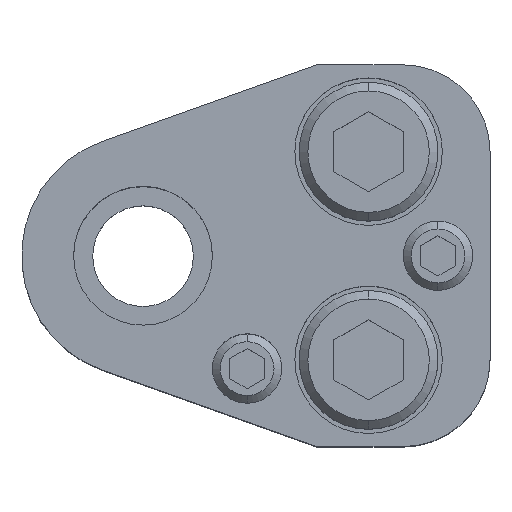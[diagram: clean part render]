
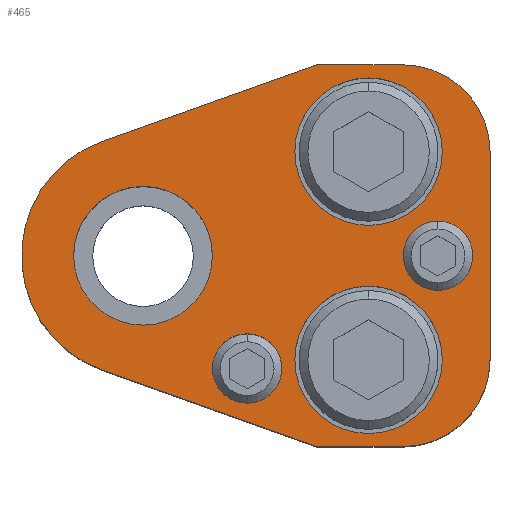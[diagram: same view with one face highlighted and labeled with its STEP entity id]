
A CAD part, top view. The second image highlights one B-rep face of the part: STEP entity #465.
In plain terms, the highlighted planar face has unit normal (0, 0, 1).
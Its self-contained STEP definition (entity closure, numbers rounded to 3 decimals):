
#219=FACE_BOUND('',#833,.T.);
#220=FACE_BOUND('',#834,.T.);
#221=FACE_BOUND('',#835,.T.);
#222=FACE_BOUND('',#836,.T.);
#223=FACE_BOUND('',#837,.T.);
#224=FACE_BOUND('',#838,.T.);
#269=CIRCLE('',#2664,10.);
#271=CIRCLE('',#2668,10.);
#281=CIRCLE('',#2684,8.5);
#283=CIRCLE('',#2687,8.5);
#285=CIRCLE('',#2691,8.5);
#287=CIRCLE('',#2694,8.5);
#290=CIRCLE('',#2699,14.);
#292=CIRCLE('',#2705,8.);
#294=CIRCLE('',#2708,8.);
#314=CIRCLE('',#2743,4.);
#315=CIRCLE('',#2744,4.);
#316=CIRCLE('',#2745,4.);
#317=CIRCLE('',#2746,4.);
#465=ADVANCED_FACE('',(#219,#220,#221,#222,#223,#224),#584,.T.);
#584=PLANE('',#2747);
#833=EDGE_LOOP('',(#1239,#1240,#1241,#1242,#1243,#1244,#1245,#1246));
#834=EDGE_LOOP('',(#1247,#1248));
#835=EDGE_LOOP('',(#1249,#1250));
#836=EDGE_LOOP('',(#1251,#1252));
#837=EDGE_LOOP('',(#1253,#1254));
#838=EDGE_LOOP('',(#1255,#1256));
#1239=ORIENTED_EDGE('',*,*,#1976,.T.);
#1240=ORIENTED_EDGE('',*,*,#1985,.T.);
#1241=ORIENTED_EDGE('',*,*,#1935,.T.);
#1242=ORIENTED_EDGE('',*,*,#1939,.T.);
#1243=ORIENTED_EDGE('',*,*,#1942,.T.);
#1244=ORIENTED_EDGE('',*,*,#1945,.T.);
#1245=ORIENTED_EDGE('',*,*,#1948,.T.);
#1246=ORIENTED_EDGE('',*,*,#1980,.T.);
#1247=ORIENTED_EDGE('',*,*,#2026,.F.);
#1248=ORIENTED_EDGE('',*,*,#2027,.F.);
#1249=ORIENTED_EDGE('',*,*,#2028,.F.);
#1250=ORIENTED_EDGE('',*,*,#2029,.F.);
#1251=ORIENTED_EDGE('',*,*,#1972,.F.);
#1252=ORIENTED_EDGE('',*,*,#1968,.F.);
#1253=ORIENTED_EDGE('',*,*,#1966,.F.);
#1254=ORIENTED_EDGE('',*,*,#1962,.F.);
#1255=ORIENTED_EDGE('',*,*,#1996,.T.);
#1256=ORIENTED_EDGE('',*,*,#1993,.T.);
#1686=VERTEX_POINT('',#3857);
#1687=VERTEX_POINT('',#3859);
#1690=VERTEX_POINT('',#3866);
#1692=VERTEX_POINT('',#3872);
#1694=VERTEX_POINT('',#3878);
#1696=VERTEX_POINT('',#3884);
#1705=VERTEX_POINT('',#3913);
#1706=VERTEX_POINT('',#3914);
#1709=VERTEX_POINT('',#3926);
#1710=VERTEX_POINT('',#3927);
#1715=VERTEX_POINT('',#3942);
#1716=VERTEX_POINT('',#3944);
#1726=VERTEX_POINT('',#3979);
#1727=VERTEX_POINT('',#3981);
#1746=VERTEX_POINT('',#4049);
#1747=VERTEX_POINT('',#4050);
#1748=VERTEX_POINT('',#4053);
#1749=VERTEX_POINT('',#4054);
#1935=EDGE_CURVE('',#1687,#1686,#2269,.T.);
#1939=EDGE_CURVE('',#1686,#1690,#269,.T.);
#1942=EDGE_CURVE('',#1690,#1692,#2274,.T.);
#1945=EDGE_CURVE('',#1692,#1694,#271,.T.);
#1948=EDGE_CURVE('',#1694,#1696,#2278,.T.);
#1962=EDGE_CURVE('',#1705,#1706,#281,.T.);
#1966=EDGE_CURVE('',#1706,#1705,#283,.T.);
#1968=EDGE_CURVE('',#1709,#1710,#285,.T.);
#1972=EDGE_CURVE('',#1710,#1709,#287,.T.);
#1976=EDGE_CURVE('',#1716,#1715,#290,.T.);
#1980=EDGE_CURVE('',#1696,#1716,#2292,.T.);
#1985=EDGE_CURVE('',#1715,#1687,#2297,.T.);
#1993=EDGE_CURVE('',#1727,#1726,#292,.T.);
#1996=EDGE_CURVE('',#1726,#1727,#294,.T.);
#2026=EDGE_CURVE('',#1746,#1747,#314,.T.);
#2027=EDGE_CURVE('',#1747,#1746,#315,.T.);
#2028=EDGE_CURVE('',#1748,#1749,#316,.T.);
#2029=EDGE_CURVE('',#1749,#1748,#317,.T.);
#2269=LINE('',#3858,#2467);
#2274=LINE('',#3873,#2472);
#2278=LINE('',#3885,#2476);
#2292=LINE('',#3951,#2490);
#2297=LINE('',#3959,#2495);
#2467=VECTOR('',#3061,1.);
#2472=VECTOR('',#3074,1.);
#2476=VECTOR('',#3086,1.);
#2490=VECTOR('',#3160,1.);
#2495=VECTOR('',#3167,1.);
#2664=AXIS2_PLACEMENT_3D('',#3867,#3067,#3068);
#2668=AXIS2_PLACEMENT_3D('',#3879,#3079,#3080);
#2684=AXIS2_PLACEMENT_3D('',#3912,#3118,#3119);
#2687=AXIS2_PLACEMENT_3D('',#3921,#3126,#3127);
#2691=AXIS2_PLACEMENT_3D('',#3925,#3134,#3135);
#2694=AXIS2_PLACEMENT_3D('',#3934,#3142,#3143);
#2699=AXIS2_PLACEMENT_3D('',#3943,#3153,#3154);
#2705=AXIS2_PLACEMENT_3D('',#3980,#3179,#3180);
#2708=AXIS2_PLACEMENT_3D('',#3985,#3186,#3187);
#2743=AXIS2_PLACEMENT_3D('',#4048,#3266,#3267);
#2744=AXIS2_PLACEMENT_3D('',#4051,#3268,#3269);
#2745=AXIS2_PLACEMENT_3D('',#4052,#3270,#3271);
#2746=AXIS2_PLACEMENT_3D('',#4055,#3272,#3273);
#2747=AXIS2_PLACEMENT_3D('',#4056,#3274,#3275);
#3061=DIRECTION('',(1.,0.,0.));
#3067=DIRECTION('',(0.,0.,1.));
#3068=DIRECTION('',(-0.707,0.707,0.));
#3074=DIRECTION('',(0.,1.,0.));
#3079=DIRECTION('',(0.,0.,1.));
#3080=DIRECTION('',(-0.707,-0.707,0.));
#3086=DIRECTION('',(-1.,0.,0.));
#3118=DIRECTION('',(0.,0.,1.));
#3119=DIRECTION('',(-1.,0.,0.));
#3126=DIRECTION('',(0.,0.,1.));
#3127=DIRECTION('',(1.,0.,0.));
#3134=DIRECTION('',(0.,0.,1.));
#3135=DIRECTION('',(-1.,0.,0.));
#3142=DIRECTION('',(0.,0.,1.));
#3143=DIRECTION('',(1.,0.,0.));
#3153=DIRECTION('',(0.,0.,1.));
#3154=DIRECTION('',(0.,1.,0.));
#3160=DIRECTION('',(-0.942,-0.336,0.));
#3167=DIRECTION('',(0.942,-0.336,0.));
#3179=DIRECTION('',(0.,0.,-1.));
#3180=DIRECTION('',(1.,0.,0.));
#3186=DIRECTION('',(0.,0.,-1.));
#3187=DIRECTION('',(-1.,0.,0.));
#3266=DIRECTION('',(0.,0.,1.));
#3267=DIRECTION('',(1.,0.,0.));
#3268=DIRECTION('',(0.,0.,1.));
#3269=DIRECTION('',(-1.,0.,0.));
#3270=DIRECTION('',(0.,0.,1.));
#3271=DIRECTION('',(1.,0.,0.));
#3272=DIRECTION('',(0.,0.,1.));
#3273=DIRECTION('',(-1.,0.,0.));
#3274=DIRECTION('',(0.,0.,1.));
#3275=DIRECTION('',(0.942,0.336,0.));
#3857=CARTESIAN_POINT('',(30.,-22.,35.));
#3858=CARTESIAN_POINT('',(20.,-22.,35.));
#3859=CARTESIAN_POINT('',(20.,-22.,35.));
#3866=CARTESIAN_POINT('',(40.,-12.,35.));
#3867=CARTESIAN_POINT('',(30.,-12.,35.));
#3872=CARTESIAN_POINT('',(40.,12.,35.));
#3873=CARTESIAN_POINT('',(40.,-12.,35.));
#3878=CARTESIAN_POINT('',(30.,22.,35.));
#3879=CARTESIAN_POINT('',(30.,12.,35.));
#3884=CARTESIAN_POINT('',(20.,22.,35.));
#3885=CARTESIAN_POINT('',(20.,22.,35.));
#3912=CARTESIAN_POINT('',(26.,12.,35.));
#3913=CARTESIAN_POINT('',(26.,3.5,35.));
#3914=CARTESIAN_POINT('',(26.,20.5,35.));
#3921=CARTESIAN_POINT('',(26.,12.,35.));
#3925=CARTESIAN_POINT('',(26.,-12.,35.));
#3926=CARTESIAN_POINT('',(26.,-20.5,35.));
#3927=CARTESIAN_POINT('',(26.,-3.5,35.));
#3934=CARTESIAN_POINT('',(26.,-12.,35.));
#3942=CARTESIAN_POINT('',(-4.704,-13.186,35.));
#3943=CARTESIAN_POINT('',(0.,0.,35.));
#3944=CARTESIAN_POINT('',(-4.704,13.186,35.));
#3951=CARTESIAN_POINT('',(20.,22.,35.));
#3959=CARTESIAN_POINT('',(20.,-22.,35.));
#3979=CARTESIAN_POINT('',(0.,8.,35.));
#3980=CARTESIAN_POINT('',(0.,0.,35.));
#3981=CARTESIAN_POINT('',(0.,-8.,35.));
#3985=CARTESIAN_POINT('',(0.,0.,35.));
#4048=CARTESIAN_POINT('',(34.,0.,35.));
#4049=CARTESIAN_POINT('',(34.,4.,35.));
#4050=CARTESIAN_POINT('',(34.,-4.,35.));
#4051=CARTESIAN_POINT('',(34.,0.,35.));
#4052=CARTESIAN_POINT('',(12.,-13.,35.));
#4053=CARTESIAN_POINT('',(12.,-9.,35.));
#4054=CARTESIAN_POINT('',(12.,-17.,35.));
#4055=CARTESIAN_POINT('',(12.,-13.,35.));
#4056=CARTESIAN_POINT('',(-4.704,13.186,35.));
